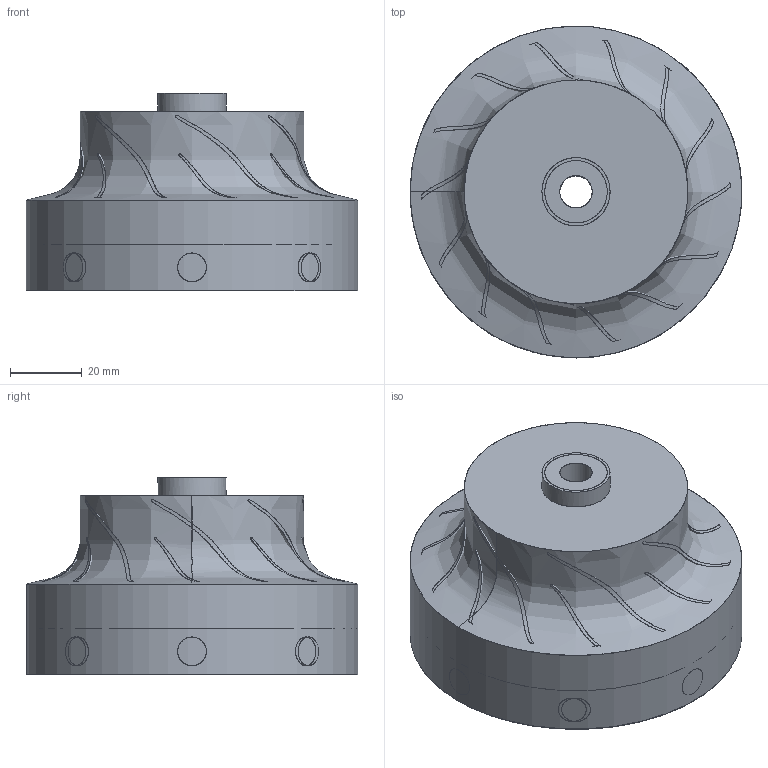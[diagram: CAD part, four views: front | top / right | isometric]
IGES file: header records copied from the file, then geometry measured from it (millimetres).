
Start section: Iges File created by ES
Global section: native system: ES; preprocessor: IGES.4B00; organization: JingDiao; units: millimetre
Bounding box: 92.5 x 92.5 x 55 mm (x, y, z)
Surface area: 65796 mm2 (no closed solid volume)
Topology: 0 solids, 0 shells, 81 faces, 25720 edges, 25681 vertices
Faces by surface type: bspline 63, revolution 18
